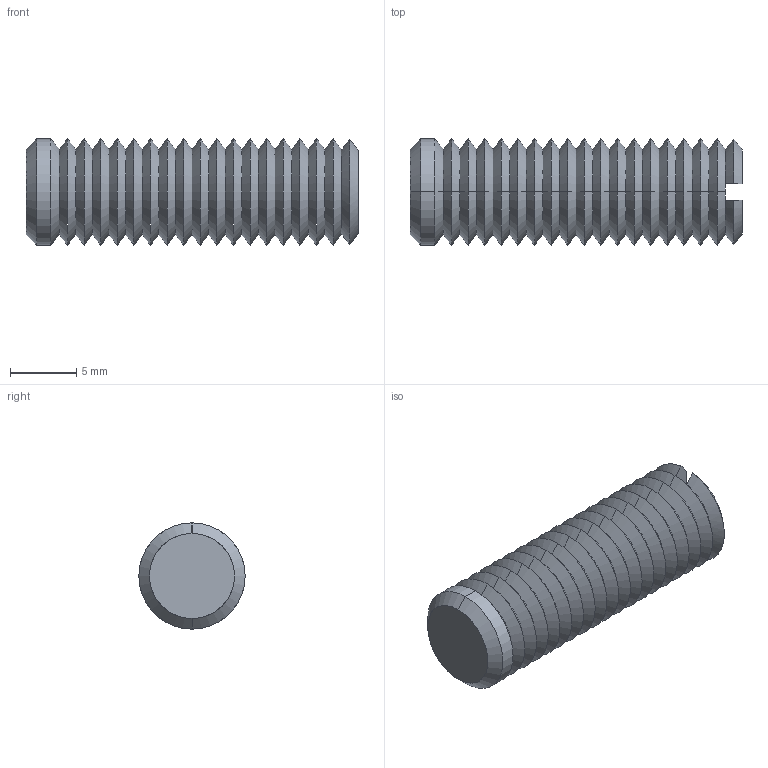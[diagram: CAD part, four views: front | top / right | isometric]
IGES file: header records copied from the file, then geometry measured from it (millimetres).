
Start section: SolidWorks IGES file using analytic representation for surfaces
Global section: file name: C:\Documents and Settings\IANO\Desktop\Temp File\Process pending\EXISTING\34300_v2\34300_v2_20170622_IGES\34300.W0080.igs; native system: SolidWorks 2009; preprocessor: SolidWorks 2009; author: IANO; date: 170622.093725; units: millimetre
Bounding box: 25 x 8 x 8 mm (x, y, z)
Surface area: 969.3 mm2 (no closed solid volume)
Topology: 0 solids, 0 shells, 84 faces, 400 edges, 400 vertices
Faces by surface type: revolution 78, bspline 6
